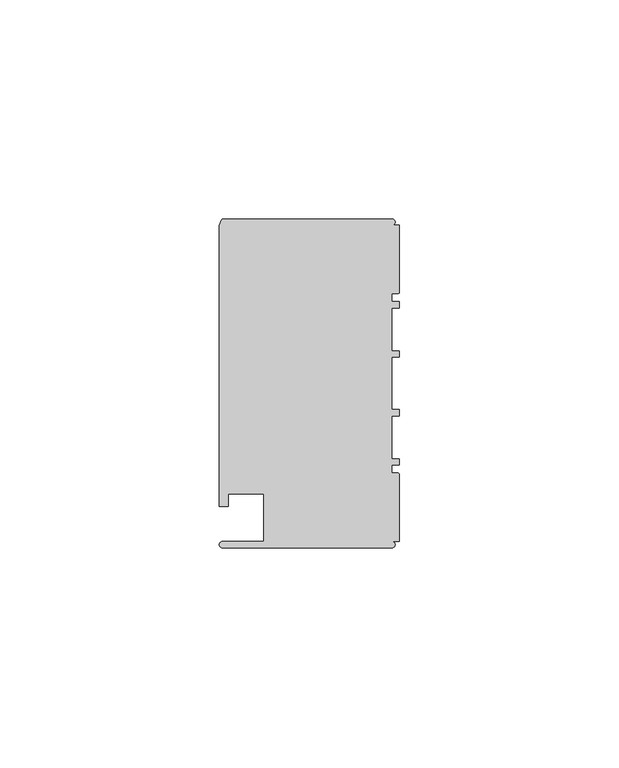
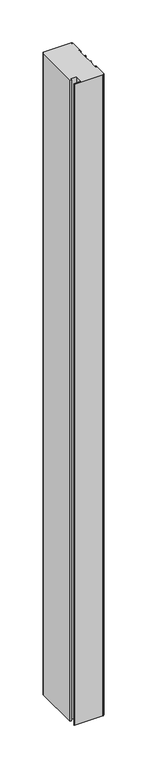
"""IFC4 building model written with IfcOpenShell, lengths in millimetres: member geometry, Прямоугольный импост : 1-AMG-1-Профиль 40Х75 Низ Л."""

from ifc_helpers import new_model, si_unit, point, frame, frame_2d, origin, place, context, project, spatial, polyline, circle_curve, trimmed, segment, composite_curve, outline, extrude, source, transform, mapped, element, save


def member_97b0498a(model_context):
    return source(origin(), model_context, "Body", "SweptSolid", [
        extrude(outline(composite_curve([segment(polyline([(-1.7, -37.5), (-40.4, -37.5)]), True, "CONTINUOUS"), segment(trimmed(circle_curve(frame_2d((-40.4, -36.8)), 0.7), [point((-40.4, -37.5))], [point((-40.4, -36.1))], False, "CARTESIAN"), True, "CONTINUOUS"), segment(polyline([(-40.4, -36.1), (-31.0, -36.1), (-31.0, -25.25), (-39.0, -25.25), (-39.0, -28.1), (-41.1, -28.1), (-41.1, 35.6)]), True, "CONTINUOUS"), segment(trimmed(circle_curve(frame_2d((-38.1714286, 35.6)), 2.9285714), [point((-41.1, 35.6))], [point((-40.4, 37.5))], False, "CARTESIAN"), True, "CONTINUOUS"), segment(polyline([(-40.4, 37.5), (-1.7, 37.5)]), True, "CONTINUOUS"), segment(trimmed(circle_curve(frame_2d((-1.7, 36.8)), 0.7), [point((-1.7, 37.5))], [point((-1.7, 36.1))], False, "CARTESIAN"), True, "CONTINUOUS"), segment(polyline([(-1.7, 36.1), (0.0, 36.1), (0.0, 20.95)]), True, "CONTINUOUS"), segment(trimmed(circle_curve(frame_2d((-0.5, 20.95)), 0.5), [point((0.0, 20.95))], [point((-0.5, 20.45))], False, "CARTESIAN"), True, "CONTINUOUS"), segment(polyline([(-0.5, 20.45), (-1.8, 20.45), (-1.8, 18.65), (0.0, 18.65), (0.0, 17.25), (-1.8, 17.25), (-1.8, 7.4), (0.0, 7.4), (0.0, 6.0), (-1.8, 6.0), (-1.8, -6.0), (0.0, -6.0), (0.0, -7.4), (-1.8, -7.4), (-1.8, -17.25), (0.0, -17.25), (0.0, -18.65), (-1.8, -18.65), (-1.8, -20.45), (-0.5, -20.45)]), True, "CONTINUOUS"), segment(trimmed(circle_curve(frame_2d((-0.5, -20.95)), 0.5), [point((-0.5, -20.45))], [point((0.0, -20.95))], False, "CARTESIAN"), True, "CONTINUOUS"), segment(polyline([(0.0, -20.95), (0.0, -36.1), (-1.7, -36.1)]), True, "CONTINUOUS"), segment(trimmed(circle_curve(frame_2d((-1.7, -36.8)), 0.7), [point((-1.7, -36.1))], [point((-1.7, -37.5))], False, "CARTESIAN"), True, "CONTINUOUS")], self_intersect=False)), frame((0.0, 0.0, -920.0), z_axis=(0.0, 0.0, 1.0), x_axis=(1.0, 0.0, 0.0)), (0.0, 0.0, 1.0), 920.0),
    ])


if __name__ == "__main__":
    model = new_model("IFC4")
    model_context = context("Model", 3, world=origin())
    ifc_project = project(units=[si_unit("LENGTHUNIT", "METRE", prefix="MILLI")], contexts=[model_context])
    site = spatial("IfcSite", under=ifc_project)
    building = spatial("IfcBuilding", under=site)
    placement = place(None, origin())
    member_shape = member_97b0498a(model_context)
    element("IfcMember", 1, ObjectType="Прямоугольный импост : 1-AMG-1-Профиль 40Х75 Низ Л", at=placement, inside=building, context=model_context, shape_type="MappedRepresentation", body=[
        mapped(member_shape, transform((0.0, 0.0, 0.0), x_axis=(1.0, 0.0, 0.0), y_axis=(0.0, 1.0, 0.0), z_axis=(0.0, 0.0, 1.0))),
    ])
    save(model, "model.ifc")
